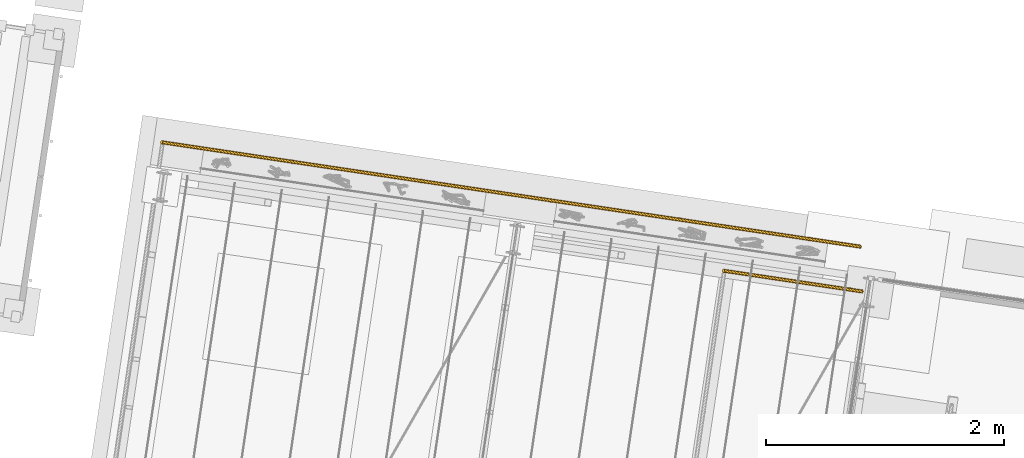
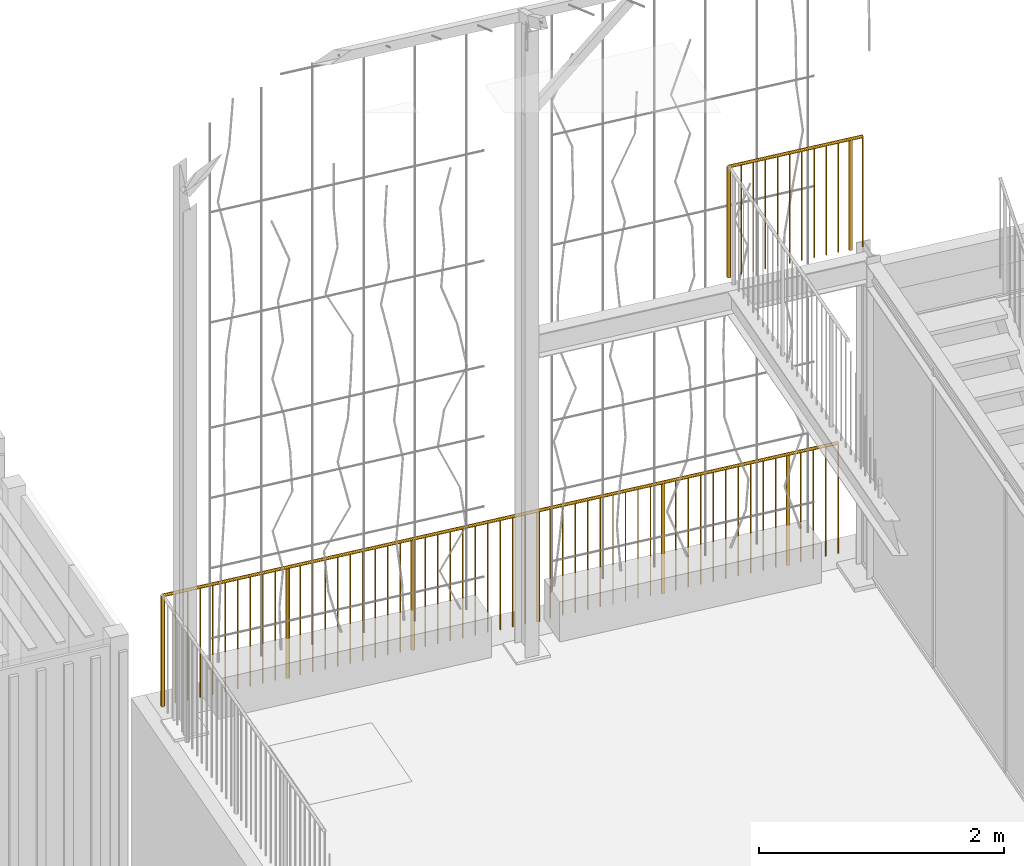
# One storey, part 134 of 142: 2 railings, 2 elements without a shape of their own.
"""IFC4 building model written with IfcOpenShell, lengths in metres."""

from ifc_helpers import new_model, si_unit, direction, frame, origin_with_axes, place, context, subcontext, project, spatial, circle, extrude, material, element, aggregate, save


model = new_model("IFC4")

# Units and contexts
model_context = context("Model", 3, precision=1e-05, world=origin_with_axes(), true_north=direction((0.0, 1.0)))
body_context = subcontext(model_context, "Body", "Model", "MODEL_VIEW")
ifc_project = project(units=[si_unit("VOLUMEUNIT", "CUBIC_METRE"), si_unit("LENGTHUNIT", "METRE"), si_unit("AREAUNIT", "SQUARE_METRE")], contexts=[model_context])

# Site, building, storey
site_placement = place(None, origin_with_axes())
site = spatial("IfcSite", under=ifc_project, at=site_placement, Name="Lares · Rua das Mercês · artigo 4771")
building_placement = place(site_placement, frame((12.0, 10.2, 13.9), z_axis=(0.0, 0.0, 1.0), x_axis=(0.989015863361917, -0.147809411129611, 0.0)))
building = spatial("IfcBuilding", under=site, at=building_placement, Name="Casa Sobreposta")
storey_placement = place(building_placement, origin_with_axes())
storey = spatial("IfcBuildingStorey", under=building, at=storey_placement, Name="00 · Habitação e estacionamento", Elevation=13.9)

# Assembly, railing
assembly_1_placement = place(storey_placement, origin_with_axes())
assembly_1 = element("IfcElementAssembly", 1, at=assembly_1_placement, inside=storey, Name="Pódio · projeção da estufa e cisterna", ObjectType="CISTERN_PODIUM", PredefinedType="USERDEFINED")
ifc_material = material(Name="Aço pintado / Stahl lackiert", Category="steel")
railing_1_placement = place(assembly_1_placement, origin_with_axes())
railing_1 = element("IfcRailing", 2, at=railing_1_placement, material=ifc_material, Name="Pódio · guarda norte", PredefinedType="GUARDRAIL", context=body_context, shape_type="SweptSolid", body=[
    extrude(circle(Radius=0.015), frame((-6.05, 6.65, 1.06), z_axis=(1.0, 0.0, 0.0), x_axis=(0.0, -1.0, 0.0)), (0.0, 0.0, 1.0), 5.93),
    extrude(circle(Radius=0.0175), frame((-6.05, 6.65, -0.04), z_axis=(0.0, 0.0, 1.0), x_axis=(1.0, 0.0, 0.0)), (0.0, 0.0, 1.0), 1.1),
    extrude(circle(Radius=0.006), frame((-5.94018518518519, 6.65, -0.04), z_axis=(0.0, 0.0, 1.0), x_axis=(1.0, 0.0, 0.0)), (0.0, 0.0, 1.0), 1.1),
    extrude(circle(Radius=0.006), frame((-5.83037037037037, 6.65, -0.04), z_axis=(0.0, 0.0, 1.0), x_axis=(1.0, 0.0, 0.0)), (0.0, 0.0, 1.0), 1.1),
    extrude(circle(Radius=0.006), frame((-5.72055555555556, 6.65, -0.04), z_axis=(0.0, 0.0, 1.0), x_axis=(1.0, 0.0, 0.0)), (0.0, 0.0, 1.0), 1.1),
    extrude(circle(Radius=0.006), frame((-5.61074074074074, 6.65, -0.04), z_axis=(0.0, 0.0, 1.0), x_axis=(1.0, 0.0, 0.0)), (0.0, 0.0, 1.0), 1.1),
    extrude(circle(Radius=0.006), frame((-5.50092592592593, 6.65, -0.04), z_axis=(0.0, 0.0, 1.0), x_axis=(1.0, 0.0, 0.0)), (0.0, 0.0, 1.0), 1.1),
    extrude(circle(Radius=0.006), frame((-5.39111111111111, 6.65, -0.04), z_axis=(0.0, 0.0, 1.0), x_axis=(1.0, 0.0, 0.0)), (0.0, 0.0, 1.0), 1.1),
    extrude(circle(Radius=0.006), frame((-5.2812962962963, 6.65, -0.04), z_axis=(0.0, 0.0, 1.0), x_axis=(1.0, 0.0, 0.0)), (0.0, 0.0, 1.0), 1.1),
    extrude(circle(Radius=0.006), frame((-5.17148148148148, 6.65, -0.04), z_axis=(0.0, 0.0, 1.0), x_axis=(1.0, 0.0, 0.0)), (0.0, 0.0, 1.0), 1.1),
    extrude(circle(Radius=0.006), frame((-5.06166666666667, 6.65, -0.04), z_axis=(0.0, 0.0, 1.0), x_axis=(1.0, 0.0, 0.0)), (0.0, 0.0, 1.0), 1.1),
    extrude(circle(Radius=0.0175), frame((-4.95185185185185, 6.65, -0.04), z_axis=(0.0, 0.0, 1.0), x_axis=(1.0, 0.0, 0.0)), (0.0, 0.0, 1.0), 1.1),
    extrude(circle(Radius=0.006), frame((-4.84203703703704, 6.65, -0.04), z_axis=(0.0, 0.0, 1.0), x_axis=(1.0, 0.0, 0.0)), (0.0, 0.0, 1.0), 1.1),
    extrude(circle(Radius=0.006), frame((-4.73222222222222, 6.65, -0.04), z_axis=(0.0, 0.0, 1.0), x_axis=(1.0, 0.0, 0.0)), (0.0, 0.0, 1.0), 1.1),
    extrude(circle(Radius=0.006), frame((-4.62240740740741, 6.65, -0.04), z_axis=(0.0, 0.0, 1.0), x_axis=(1.0, 0.0, 0.0)), (0.0, 0.0, 1.0), 1.1),
    extrude(circle(Radius=0.006), frame((-4.51259259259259, 6.65, -0.04), z_axis=(0.0, 0.0, 1.0), x_axis=(1.0, 0.0, 0.0)), (0.0, 0.0, 1.0), 1.1),
    extrude(circle(Radius=0.006), frame((-4.40277777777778, 6.65, -0.04), z_axis=(0.0, 0.0, 1.0), x_axis=(1.0, 0.0, 0.0)), (0.0, 0.0, 1.0), 1.1),
    extrude(circle(Radius=0.006), frame((-4.29296296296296, 6.65, -0.04), z_axis=(0.0, 0.0, 1.0), x_axis=(1.0, 0.0, 0.0)), (0.0, 0.0, 1.0), 1.1),
    extrude(circle(Radius=0.006), frame((-4.18314814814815, 6.65, -0.04), z_axis=(0.0, 0.0, 1.0), x_axis=(1.0, 0.0, 0.0)), (0.0, 0.0, 1.0), 1.1),
    extrude(circle(Radius=0.006), frame((-4.07333333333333, 6.65, -0.04), z_axis=(0.0, 0.0, 1.0), x_axis=(1.0, 0.0, 0.0)), (0.0, 0.0, 1.0), 1.1),
    extrude(circle(Radius=0.006), frame((-3.96351851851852, 6.65, -0.04), z_axis=(0.0, 0.0, 1.0), x_axis=(1.0, 0.0, 0.0)), (0.0, 0.0, 1.0), 1.1),
    extrude(circle(Radius=0.0175), frame((-3.8537037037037, 6.65, -0.04), z_axis=(0.0, 0.0, 1.0), x_axis=(1.0, 0.0, 0.0)), (0.0, 0.0, 1.0), 1.1),
    extrude(circle(Radius=0.006), frame((-3.74388888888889, 6.65, -0.04), z_axis=(0.0, 0.0, 1.0), x_axis=(1.0, 0.0, 0.0)), (0.0, 0.0, 1.0), 1.1),
    extrude(circle(Radius=0.006), frame((-3.63407407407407, 6.65, -0.04), z_axis=(0.0, 0.0, 1.0), x_axis=(1.0, 0.0, 0.0)), (0.0, 0.0, 1.0), 1.1),
    extrude(circle(Radius=0.006), frame((-3.52425925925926, 6.65, -0.04), z_axis=(0.0, 0.0, 1.0), x_axis=(1.0, 0.0, 0.0)), (0.0, 0.0, 1.0), 1.1),
    extrude(circle(Radius=0.006), frame((-3.41444444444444, 6.65, -0.04), z_axis=(0.0, 0.0, 1.0), x_axis=(1.0, 0.0, 0.0)), (0.0, 0.0, 1.0), 1.1),
    extrude(circle(Radius=0.006), frame((-3.30462962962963, 6.65, -0.04), z_axis=(0.0, 0.0, 1.0), x_axis=(1.0, 0.0, 0.0)), (0.0, 0.0, 1.0), 1.1),
    extrude(circle(Radius=0.006), frame((-3.19481481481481, 6.65, -0.04), z_axis=(0.0, 0.0, 1.0), x_axis=(1.0, 0.0, 0.0)), (0.0, 0.0, 1.0), 1.1),
    extrude(circle(Radius=0.006), frame((-3.085, 6.65, -0.04), z_axis=(0.0, 0.0, 1.0), x_axis=(1.0, 0.0, 0.0)), (0.0, 0.0, 1.0), 1.1),
    extrude(circle(Radius=0.006), frame((-2.97518518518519, 6.65, -0.04), z_axis=(0.0, 0.0, 1.0), x_axis=(1.0, 0.0, 0.0)), (0.0, 0.0, 1.0), 1.1),
    extrude(circle(Radius=0.006), frame((-2.86537037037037, 6.65, -0.04), z_axis=(0.0, 0.0, 1.0), x_axis=(1.0, 0.0, 0.0)), (0.0, 0.0, 1.0), 1.1),
    extrude(circle(Radius=0.0175), frame((-2.75555555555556, 6.65, -0.04), z_axis=(0.0, 0.0, 1.0), x_axis=(1.0, 0.0, 0.0)), (0.0, 0.0, 1.0), 1.1),
    extrude(circle(Radius=0.006), frame((-2.64574074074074, 6.65, -0.04), z_axis=(0.0, 0.0, 1.0), x_axis=(1.0, 0.0, 0.0)), (0.0, 0.0, 1.0), 1.1),
    extrude(circle(Radius=0.006), frame((-2.53592592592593, 6.65, -0.04), z_axis=(0.0, 0.0, 1.0), x_axis=(1.0, 0.0, 0.0)), (0.0, 0.0, 1.0), 1.1),
    extrude(circle(Radius=0.006), frame((-2.42611111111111, 6.65, -0.04), z_axis=(0.0, 0.0, 1.0), x_axis=(1.0, 0.0, 0.0)), (0.0, 0.0, 1.0), 1.1),
    extrude(circle(Radius=0.006), frame((-2.3162962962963, 6.65, -0.04), z_axis=(0.0, 0.0, 1.0), x_axis=(1.0, 0.0, 0.0)), (0.0, 0.0, 1.0), 1.1),
    extrude(circle(Radius=0.006), frame((-2.20648148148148, 6.65, -0.04), z_axis=(0.0, 0.0, 1.0), x_axis=(1.0, 0.0, 0.0)), (0.0, 0.0, 1.0), 1.1),
    extrude(circle(Radius=0.006), frame((-2.09666666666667, 6.65, -0.04), z_axis=(0.0, 0.0, 1.0), x_axis=(1.0, 0.0, 0.0)), (0.0, 0.0, 1.0), 1.1),
    extrude(circle(Radius=0.006), frame((-1.98685185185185, 6.65, -0.04), z_axis=(0.0, 0.0, 1.0), x_axis=(1.0, 0.0, 0.0)), (0.0, 0.0, 1.0), 1.1),
    extrude(circle(Radius=0.006), frame((-1.87703703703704, 6.65, -0.04), z_axis=(0.0, 0.0, 1.0), x_axis=(1.0, 0.0, 0.0)), (0.0, 0.0, 1.0), 1.1),
    extrude(circle(Radius=0.006), frame((-1.76722222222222, 6.65, -0.04), z_axis=(0.0, 0.0, 1.0), x_axis=(1.0, 0.0, 0.0)), (0.0, 0.0, 1.0), 1.1),
    extrude(circle(Radius=0.0175), frame((-1.65740740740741, 6.65, -0.04), z_axis=(0.0, 0.0, 1.0), x_axis=(1.0, 0.0, 0.0)), (0.0, 0.0, 1.0), 1.1),
    extrude(circle(Radius=0.006), frame((-1.54759259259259, 6.65, -0.04), z_axis=(0.0, 0.0, 1.0), x_axis=(1.0, 0.0, 0.0)), (0.0, 0.0, 1.0), 1.1),
    extrude(circle(Radius=0.006), frame((-1.43777777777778, 6.65, -0.04), z_axis=(0.0, 0.0, 1.0), x_axis=(1.0, 0.0, 0.0)), (0.0, 0.0, 1.0), 1.1),
    extrude(circle(Radius=0.006), frame((-1.32796296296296, 6.65, -0.04), z_axis=(0.0, 0.0, 1.0), x_axis=(1.0, 0.0, 0.0)), (0.0, 0.0, 1.0), 1.1),
    extrude(circle(Radius=0.006), frame((-1.21814814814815, 6.65, -0.04), z_axis=(0.0, 0.0, 1.0), x_axis=(1.0, 0.0, 0.0)), (0.0, 0.0, 1.0), 1.1),
    extrude(circle(Radius=0.006), frame((-1.10833333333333, 6.65, -0.04), z_axis=(0.0, 0.0, 1.0), x_axis=(1.0, 0.0, 0.0)), (0.0, 0.0, 1.0), 1.1),
    extrude(circle(Radius=0.006), frame((-0.998518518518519, 6.65, -0.04), z_axis=(0.0, 0.0, 1.0), x_axis=(1.0, 0.0, 0.0)), (0.0, 0.0, 1.0), 1.1),
    extrude(circle(Radius=0.006), frame((-0.888703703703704, 6.65, -0.04), z_axis=(0.0, 0.0, 1.0), x_axis=(1.0, 0.0, 0.0)), (0.0, 0.0, 1.0), 1.1),
    extrude(circle(Radius=0.006), frame((-0.778888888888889, 6.65, -0.04), z_axis=(0.0, 0.0, 1.0), x_axis=(1.0, 0.0, 0.0)), (0.0, 0.0, 1.0), 1.1),
    extrude(circle(Radius=0.006), frame((-0.669074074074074, 6.65, -0.04), z_axis=(0.0, 0.0, 1.0), x_axis=(1.0, 0.0, 0.0)), (0.0, 0.0, 1.0), 1.1),
    extrude(circle(Radius=0.0175), frame((-0.559259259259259, 6.65, -0.04), z_axis=(0.0, 0.0, 1.0), x_axis=(1.0, 0.0, 0.0)), (0.0, 0.0, 1.0), 1.1),
    extrude(circle(Radius=0.006), frame((-0.449444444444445, 6.65, -0.04), z_axis=(0.0, 0.0, 1.0), x_axis=(1.0, 0.0, 0.0)), (0.0, 0.0, 1.0), 1.1),
    extrude(circle(Radius=0.006), frame((-0.33962962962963, 6.65, -0.04), z_axis=(0.0, 0.0, 1.0), x_axis=(1.0, 0.0, 0.0)), (0.0, 0.0, 1.0), 1.1),
    extrude(circle(Radius=0.006), frame((-0.229814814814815, 6.65, -0.04), z_axis=(0.0, 0.0, 1.0), x_axis=(1.0, 0.0, 0.0)), (0.0, 0.0, 1.0), 1.1),
    extrude(circle(Radius=0.006), frame((-0.12, 6.65, -0.04), z_axis=(0.0, 0.0, 1.0), x_axis=(1.0, 0.0, 0.0)), (0.0, 0.0, 1.0), 1.1),
])
aggregate(assembly_1, [railing_1])

assembly_2_placement = place(storey_placement, origin_with_axes())
assembly_2 = element("IfcElementAssembly", 3, at=assembly_2_placement, inside=storey, Name="Pérgola · prolongamento da estufa 6 m", ObjectType="PERGOLA_GREENHOUSE_EXTENSION", PredefinedType="USERDEFINED")
railing_2_placement = place(assembly_2_placement, origin_with_axes())
railing_2 = element("IfcRailing", 4, at=railing_2_placement, material=ifc_material, Name="Varanda · guarda", PredefinedType="GUARDRAIL", context=body_context, shape_type="SweptSolid", body=[
    extrude(circle(Radius=0.015), frame((-1.225, 6.28, 4.34), z_axis=(1.0, 0.0, 0.0), x_axis=(0.0, -1.0, 0.0)), (0.0, 0.0, 1.0), 1.175),
    extrude(circle(Radius=0.0175), frame((-1.225, 6.28, 3.24), z_axis=(0.0, 0.0, 1.0), x_axis=(1.0, 0.0, 0.0)), (0.0, 0.0, 1.0), 1.1),
    extrude(circle(Radius=0.006), frame((-1.11818181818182, 6.28, 3.24), z_axis=(0.0, 0.0, 1.0), x_axis=(1.0, 0.0, 0.0)), (0.0, 0.0, 1.0), 1.1),
    extrude(circle(Radius=0.006), frame((-1.01136363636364, 6.28, 3.24), z_axis=(0.0, 0.0, 1.0), x_axis=(1.0, 0.0, 0.0)), (0.0, 0.0, 1.0), 1.1),
    extrude(circle(Radius=0.006), frame((-0.904545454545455, 6.28, 3.24), z_axis=(0.0, 0.0, 1.0), x_axis=(1.0, 0.0, 0.0)), (0.0, 0.0, 1.0), 1.1),
    extrude(circle(Radius=0.006), frame((-0.797727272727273, 6.28, 3.24), z_axis=(0.0, 0.0, 1.0), x_axis=(1.0, 0.0, 0.0)), (0.0, 0.0, 1.0), 1.1),
    extrude(circle(Radius=0.006), frame((-0.690909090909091, 6.28, 3.24), z_axis=(0.0, 0.0, 1.0), x_axis=(1.0, 0.0, 0.0)), (0.0, 0.0, 1.0), 1.1),
    extrude(circle(Radius=0.006), frame((-0.584090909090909, 6.28, 3.24), z_axis=(0.0, 0.0, 1.0), x_axis=(1.0, 0.0, 0.0)), (0.0, 0.0, 1.0), 1.1),
    extrude(circle(Radius=0.006), frame((-0.477272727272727, 6.28, 3.24), z_axis=(0.0, 0.0, 1.0), x_axis=(1.0, 0.0, 0.0)), (0.0, 0.0, 1.0), 1.1),
    extrude(circle(Radius=0.006), frame((-0.370454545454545, 6.28, 3.24), z_axis=(0.0, 0.0, 1.0), x_axis=(1.0, 0.0, 0.0)), (0.0, 0.0, 1.0), 1.1),
    extrude(circle(Radius=0.006), frame((-0.263636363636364, 6.28, 3.24), z_axis=(0.0, 0.0, 1.0), x_axis=(1.0, 0.0, 0.0)), (0.0, 0.0, 1.0), 1.1),
    extrude(circle(Radius=0.0175), frame((-0.156818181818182, 6.28, 3.24), z_axis=(0.0, 0.0, 1.0), x_axis=(1.0, 0.0, 0.0)), (0.0, 0.0, 1.0), 1.1),
    extrude(circle(Radius=0.006), frame((-0.05, 6.28, 3.24), z_axis=(0.0, 0.0, 1.0), x_axis=(1.0, 0.0, 0.0)), (0.0, 0.0, 1.0), 1.1),
])
aggregate(assembly_2, [railing_2])

save(model, "model.ifc")
